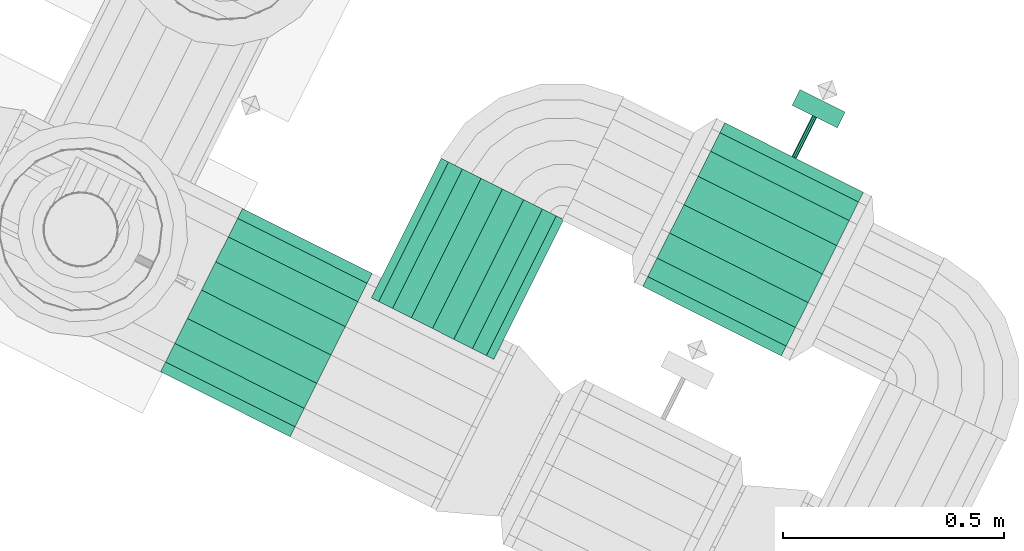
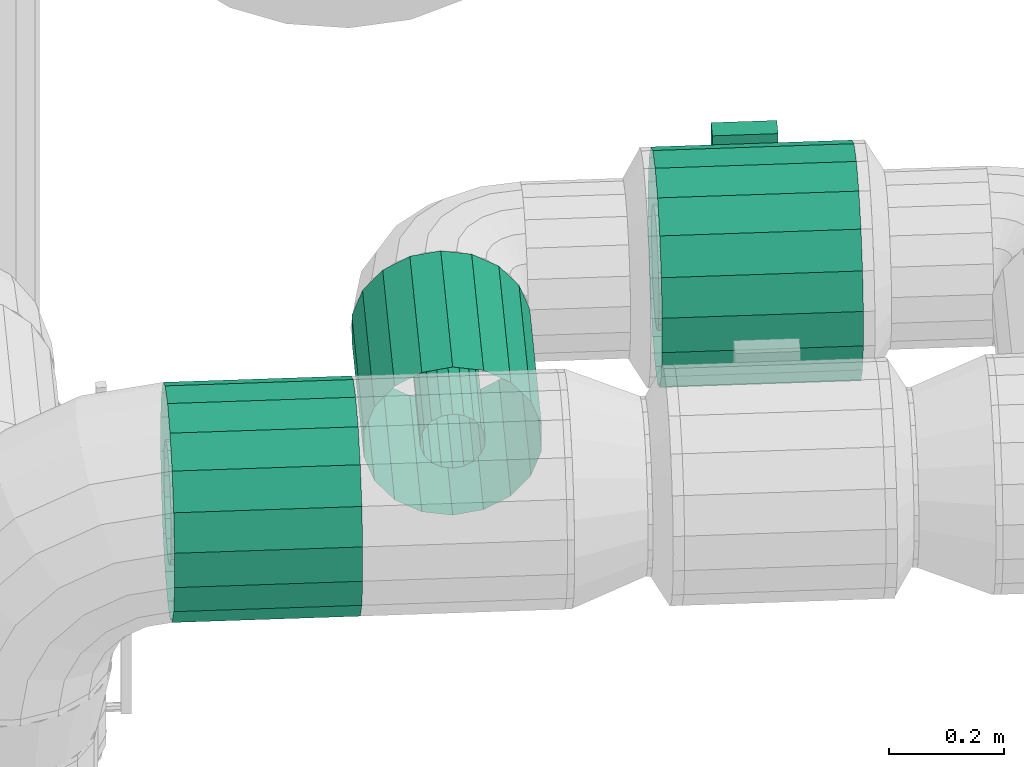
# One storey, part 34 of 152: 2 flow segments, 1 flow controller.
"""IFC2X3 building model written with IfcOpenShell, lengths in metres."""

from ifc_helpers import new_model, si_unit, derived_unit, direction, frame, origin, place, context, subcontext, project, spatial, face_set, surface_model, source, transform, mapped, material, type_object, type_shapes, element, save


model = new_model("IFC2X3")

# Units and contexts
model_context = context("Model", 3, precision=5.2338327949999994e-05, world=origin(), true_north=direction((0.0, 1.0)))
body_context = subcontext(model_context, "Body", "Model", "MODEL_VIEW")
ifc_project = project(units=[si_unit("LENGTHUNIT", "METRE"), si_unit("AREAUNIT", "SQUARE_METRE"), si_unit("VOLUMEUNIT", "CUBIC_METRE"), si_unit("MASSUNIT", "GRAM", prefix="KILO"), si_unit("PLANEANGLEUNIT", "RADIAN"), derived_unit("THERMALTRANSMITTANCEUNIT", [(si_unit("MASSUNIT", "GRAM", prefix="KILO"), 1), (si_unit("THERMODYNAMICTEMPERATUREUNIT", "KELVIN"), -1), (si_unit("TIMEUNIT", "SECOND"), -3)])], contexts=[model_context])

# Site, building, storey
site_placement = place(None, frame((0.0, 0.0, 0.0), z_axis=(0.0, 0.0, 1.0), x_axis=(0.8939966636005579, -0.4480736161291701, 0.0)))
site = spatial("IfcSite", under=ifc_project, at=site_placement, Name="Default", CompositionType="ELEMENT")
building_placement = place(site_placement, origin())
building = spatial("IfcBuilding", under=site, at=building_placement, CompositionType="ELEMENT")
storey_placement = place(building_placement, frame((0.0, 0.0, 2.7499999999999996)))
storey = spatial("IfcBuildingStorey", under=building, at=storey_placement, Name="1. Obergeschoss", CompositionType="ELEMENT", Elevation=2.7499999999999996)

# Flow controller
ifc_material = material(Name="IfcSurfaceStyle #9317")
distribution_element_type_1 = type_object("IfcDistributionElementType", Name="Ventil 267043:Ventil 267043", material=ifc_material)
shared_shape_1 = source(origin(), body_context, "Body", "SurfaceModel", [
    surface_model("IfcFaceBasedSurfaceModel", [(13.150078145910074, 6.827424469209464, 5.69279078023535), (13.035778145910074, 6.827424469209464, 5.69279078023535), (13.035778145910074, 6.827424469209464, 5.57849078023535), (13.150078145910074, 6.827424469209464, 5.57849078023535), (13.035778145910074, 6.867424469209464, 5.57849078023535), (13.150078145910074, 6.867424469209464, 5.57849078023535), (13.035778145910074, 6.867424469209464, 5.69279078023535), (13.150078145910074, 6.867424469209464, 5.69279078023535), (13.267928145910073, 6.517424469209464, 5.52564078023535), (13.267928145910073, 6.479802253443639, 5.5322745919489), (13.247928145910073, 6.479802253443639, 5.5322745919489), (13.247928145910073, 6.517424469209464, 5.52564078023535), (13.267928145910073, 6.4467178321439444, 5.551375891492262), (13.247928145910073, 6.4467178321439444, 5.551375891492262), (13.267928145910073, 6.422161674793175, 5.580640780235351), (13.247928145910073, 6.422161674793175, 5.580640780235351), (13.267928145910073, 6.409095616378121, 5.616539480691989), (13.247928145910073, 6.409095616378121, 5.616539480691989), (13.267928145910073, 6.409095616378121, 5.654742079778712), (13.247928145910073, 6.409095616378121, 5.654742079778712), (13.267928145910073, 6.422161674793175, 5.69064078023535), (13.247928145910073, 6.422161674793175, 5.69064078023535), (13.267928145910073, 6.4467178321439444, 5.719905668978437), (13.247928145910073, 6.4467178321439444, 5.719905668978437), (13.267928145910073, 6.479802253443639, 5.7390069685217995), (13.247928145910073, 6.479802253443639, 5.7390069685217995), (13.267928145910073, 6.517424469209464, 5.74564078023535), (13.247928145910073, 6.517424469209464, 5.74564078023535), (13.267928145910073, 6.555046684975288, 5.7390069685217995), (13.247928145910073, 6.555046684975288, 5.7390069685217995), (13.267928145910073, 6.588131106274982, 5.719905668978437), (13.247928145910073, 6.588131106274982, 5.719905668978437), (13.267928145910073, 6.612687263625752, 5.69064078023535), (13.247928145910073, 6.612687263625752, 5.69064078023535), (13.267928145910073, 6.625753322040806, 5.654742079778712), (13.247928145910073, 6.625753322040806, 5.654742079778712), (13.267928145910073, 6.625753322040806, 5.616539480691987), (13.247928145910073, 6.625753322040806, 5.616539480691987), (13.267928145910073, 6.612687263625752, 5.580640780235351), (13.247928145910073, 6.612687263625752, 5.580640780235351), (13.267928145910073, 6.588131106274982, 5.551375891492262), (13.247928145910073, 6.588131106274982, 5.551375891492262), (13.267928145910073, 6.555046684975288, 5.5322745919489), (13.247928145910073, 6.555046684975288, 5.5322745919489), (13.267928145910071, 6.517424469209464, 5.63564078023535), (13.247928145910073, 6.517424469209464, 5.63564078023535), (13.247928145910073, 6.451924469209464, 5.63564078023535), (13.247928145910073, 6.455874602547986, 5.658043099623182), (13.092928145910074, 6.463721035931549, 5.655187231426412), (13.092928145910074, 6.460274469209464, 5.635640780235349), (13.247928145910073, 6.467248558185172, 5.6777433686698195), (13.092928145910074, 6.473645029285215, 5.672376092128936), (13.247928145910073, 6.484674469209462, 5.69236544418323), (13.092928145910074, 6.488849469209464, 5.685134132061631), (13.247928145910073, 6.506050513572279, 5.700145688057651), (13.092928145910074, 6.5075004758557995, 5.691922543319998), (13.247928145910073, 6.528798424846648, 5.70014568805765), (13.092928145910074, 6.527348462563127, 5.691922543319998), (13.247928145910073, 6.550174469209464, 5.69236544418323), (13.092928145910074, 6.5459994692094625, 5.685134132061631), (13.247928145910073, 6.567600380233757, 5.6777433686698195), (13.092928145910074, 6.561203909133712, 5.672376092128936), (13.247928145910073, 6.578974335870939, 5.658043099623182), (13.092928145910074, 6.571127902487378, 5.655187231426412), (13.247928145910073, 6.582924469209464, 5.63564078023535), (13.092928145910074, 6.574574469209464, 5.63564078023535), (13.247928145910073, 6.57897433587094, 5.613238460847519), (13.092928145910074, 6.571127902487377, 5.616094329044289), (13.247928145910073, 6.567600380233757, 5.5935381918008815), (13.092928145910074, 6.561203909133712, 5.598905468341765), (13.247928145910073, 6.550174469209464, 5.578916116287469), (13.092928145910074, 6.5459994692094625, 5.58614742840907), (13.247928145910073, 6.528798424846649, 5.571135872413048), (13.092928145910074, 6.527348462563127, 5.579359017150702), (13.247928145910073, 6.506050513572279, 5.571135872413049), (13.092928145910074, 6.5075004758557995, 5.579359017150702), (13.247928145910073, 6.484674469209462, 5.578916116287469), (13.092928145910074, 6.488849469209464, 5.5861474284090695), (13.247928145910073, 6.46724855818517, 5.5935381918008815), (13.092928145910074, 6.473645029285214, 5.598905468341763), (13.247928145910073, 6.455874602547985, 5.613238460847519), (13.092928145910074, 6.463721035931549, 5.616094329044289), (12.937928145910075, 6.455874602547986, 5.658043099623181), (12.937928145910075, 6.451924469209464, 5.635640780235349), (12.937928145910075, 6.467248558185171, 5.677743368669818), (12.937928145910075, 6.484674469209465, 5.69236544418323), (12.937928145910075, 6.506050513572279, 5.700145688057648), (12.937928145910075, 6.528798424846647, 5.700145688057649), (12.937928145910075, 6.5501744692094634, 5.692365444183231), (12.937928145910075, 6.567600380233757, 5.677743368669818), (12.937928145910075, 6.5789743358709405, 5.658043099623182), (12.937928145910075, 6.5829244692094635, 5.63564078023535), (12.937928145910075, 6.5789743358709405, 5.613238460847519), (12.937928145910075, 6.567600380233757, 5.5935381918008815), (12.937928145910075, 6.550174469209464, 5.578916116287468), (12.937928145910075, 6.528798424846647, 5.571135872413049), (12.937928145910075, 6.506050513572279, 5.571135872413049), (12.937928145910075, 6.484674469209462, 5.578916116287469), (12.937928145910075, 6.467248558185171, 5.593538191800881), (12.937928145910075, 6.455874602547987, 5.613238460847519), (12.937928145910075, 6.517424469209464, 5.52564078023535), (12.937928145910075, 6.479802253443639, 5.5322745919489), (12.917928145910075, 6.479802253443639, 5.5322745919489), (12.917928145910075, 6.517424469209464, 5.52564078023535), (12.937928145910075, 6.4467178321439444, 5.551375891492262), (12.917928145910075, 6.4467178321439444, 5.551375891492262), (12.937928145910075, 6.422161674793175, 5.580640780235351), (12.917928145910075, 6.422161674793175, 5.580640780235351), (12.937928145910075, 6.409095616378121, 5.616539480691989), (12.917928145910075, 6.409095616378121, 5.616539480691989), (12.937928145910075, 6.409095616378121, 5.654742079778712), (12.917928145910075, 6.409095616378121, 5.654742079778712), (12.937928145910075, 6.422161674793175, 5.69064078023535), (12.917928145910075, 6.422161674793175, 5.69064078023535), (12.937928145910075, 6.4467178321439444, 5.719905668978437), (12.917928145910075, 6.4467178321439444, 5.719905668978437), (12.937928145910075, 6.479802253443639, 5.7390069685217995), (12.917928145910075, 6.479802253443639, 5.7390069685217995), (12.937928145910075, 6.517424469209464, 5.74564078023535), (12.917928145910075, 6.517424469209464, 5.74564078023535), (12.937928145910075, 6.555046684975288, 5.7390069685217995), (12.917928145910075, 6.555046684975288, 5.7390069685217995), (12.937928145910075, 6.588131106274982, 5.719905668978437), (12.917928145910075, 6.588131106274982, 5.719905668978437), (12.937928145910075, 6.612687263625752, 5.69064078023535), (12.917928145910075, 6.612687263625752, 5.69064078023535), (12.937928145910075, 6.625753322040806, 5.654742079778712), (12.917928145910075, 6.625753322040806, 5.654742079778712), (12.937928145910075, 6.625753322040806, 5.616539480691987), (12.917928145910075, 6.625753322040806, 5.616539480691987), (12.937928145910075, 6.612687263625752, 5.580640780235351), (12.917928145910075, 6.612687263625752, 5.580640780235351), (12.937928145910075, 6.588131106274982, 5.551375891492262), (12.917928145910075, 6.588131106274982, 5.551375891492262), (12.937928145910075, 6.555046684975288, 5.5322745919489), (12.917928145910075, 6.555046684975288, 5.5322745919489), (12.937928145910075, 6.517424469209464, 5.63564078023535), (12.917928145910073, 6.517424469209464, 5.63564078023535), (13.092928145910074, 6.517424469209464, 5.57849078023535), (13.07338169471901, 6.517424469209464, 5.581937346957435), (13.07338169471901, 6.700999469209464, 5.581937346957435), (13.092928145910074, 6.700999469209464, 5.57849078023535), (13.056192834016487, 6.517424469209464, 5.591861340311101), (13.056192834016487, 6.700999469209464, 5.591861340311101), (13.043434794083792, 6.517424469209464, 5.60706578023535), (13.043434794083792, 6.700999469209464, 5.60706578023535), (13.036646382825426, 6.517424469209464, 5.625716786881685), (13.036646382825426, 6.700999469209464, 5.625716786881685), (13.036646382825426, 6.517424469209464, 5.645564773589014), (13.036646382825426, 6.700999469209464, 5.645564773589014), (13.043434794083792, 6.517424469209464, 5.66421578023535), (13.043434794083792, 6.700999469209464, 5.66421578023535), (13.056192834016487, 6.517424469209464, 5.679420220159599), (13.056192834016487, 6.700999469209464, 5.679420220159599), (13.07338169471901, 6.517424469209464, 5.689344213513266), (13.07338169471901, 6.700999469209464, 5.689344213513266), (13.092928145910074, 6.517424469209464, 5.69279078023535), (13.092928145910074, 6.700999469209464, 5.69279078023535), (13.112474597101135, 6.517424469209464, 5.689344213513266), (13.112474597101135, 6.700999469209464, 5.689344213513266), (13.12966345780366, 6.517424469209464, 5.6794202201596), (13.12966345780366, 6.700999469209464, 5.6794202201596), (13.142421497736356, 6.517424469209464, 5.664215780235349), (13.142421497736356, 6.700999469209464, 5.664215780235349), (13.149209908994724, 6.517424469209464, 5.645564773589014), (13.149209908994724, 6.700999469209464, 5.645564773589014), (13.149209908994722, 6.517424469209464, 5.625716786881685), (13.149209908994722, 6.700999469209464, 5.625716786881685), (13.142421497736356, 6.517424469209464, 5.60706578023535), (13.142421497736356, 6.700999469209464, 5.60706578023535), (13.12966345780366, 6.517424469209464, 5.591861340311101), (13.12966345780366, 6.700999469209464, 5.591861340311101), (13.112474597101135, 6.517424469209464, 5.581937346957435), (13.112474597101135, 6.700999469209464, 5.581937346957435), (13.092928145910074, 6.517424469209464, 5.63564078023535), (13.092928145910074, 6.700999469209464, 5.63564078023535), (13.092928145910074, 6.700999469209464, 5.629925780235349), (13.088887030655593, 6.700999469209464, 5.631599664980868), (13.088887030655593, 6.827424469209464, 5.631599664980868), (13.092928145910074, 6.827424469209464, 5.629925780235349), (13.087213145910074, 6.700999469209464, 5.63564078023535), (13.087213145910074, 6.827424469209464, 5.63564078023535), (13.088887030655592, 6.700999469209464, 5.639681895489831), (13.088887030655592, 6.827424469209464, 5.639681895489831), (13.092928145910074, 6.700999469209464, 5.641355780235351), (13.092928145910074, 6.827424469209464, 5.641355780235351), (13.096969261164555, 6.700999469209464, 5.639681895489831), (13.096969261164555, 6.827424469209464, 5.639681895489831), (13.098643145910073, 6.700999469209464, 5.63564078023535), (13.098643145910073, 6.827424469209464, 5.63564078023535), (13.096969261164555, 6.700999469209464, 5.631599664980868), (13.096969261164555, 6.827424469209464, 5.631599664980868), (13.092928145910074, 6.827424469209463, 5.63564078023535), (13.267928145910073, 6.517424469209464, 5.42564078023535), (13.267928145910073, 6.445600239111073, 5.4383053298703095), (12.917928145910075, 6.445600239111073, 5.4383053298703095), (12.917928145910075, 6.517424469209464, 5.42564078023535), (13.267928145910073, 6.382439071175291, 5.474771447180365), (12.917928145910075, 6.382439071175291, 5.474771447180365), (13.267928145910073, 6.335559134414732, 5.53064078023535), (12.917928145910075, 6.335559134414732, 5.53064078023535), (13.267928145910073, 6.310614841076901, 5.599174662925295), (12.917928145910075, 6.310614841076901, 5.599174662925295), (13.267928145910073, 6.310614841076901, 5.672106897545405), (12.917928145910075, 6.310614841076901, 5.672106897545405), (13.267928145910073, 6.335559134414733, 5.740640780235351), (12.917928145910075, 6.335559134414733, 5.740640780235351), (13.267928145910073, 6.38243907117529, 5.796510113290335), (12.917928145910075, 6.38243907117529, 5.796510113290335), (13.267928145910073, 6.445600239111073, 5.832976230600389), (12.917928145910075, 6.445600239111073, 5.832976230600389), (13.267928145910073, 6.517424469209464, 5.84564078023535), (12.917928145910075, 6.517424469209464, 5.84564078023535), (13.267928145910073, 6.589248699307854, 5.832976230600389), (12.917928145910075, 6.589248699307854, 5.832976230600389), (13.267928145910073, 6.6524098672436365, 5.796510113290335), (12.917928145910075, 6.6524098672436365, 5.796510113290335), (13.267928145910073, 6.699289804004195, 5.740640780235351), (12.917928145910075, 6.699289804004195, 5.740640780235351), (13.267928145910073, 6.724234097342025, 5.672106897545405), (12.917928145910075, 6.724234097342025, 5.672106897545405), (13.267928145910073, 6.724234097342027, 5.599174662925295), (12.917928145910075, 6.724234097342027, 5.599174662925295), (13.267928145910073, 6.699289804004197, 5.53064078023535), (12.917928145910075, 6.699289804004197, 5.53064078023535), (13.267928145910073, 6.6524098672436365, 5.474771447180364), (12.917928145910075, 6.6524098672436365, 5.474771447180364), (13.267928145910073, 6.589248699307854, 5.4383053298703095), (12.917928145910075, 6.589248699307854, 5.4383053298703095)], [face_set([[[0, 1, 2, 3]], [[3, 2, 4, 5]], [[5, 4, 6, 7]], [[7, 6, 1, 0]], [[0, 3, 5, 7]], [[6, 4, 2, 1]], [[8, 9, 10, 11]], [[9, 12, 13, 10]], [[12, 14, 15, 13]], [[14, 16, 17, 15]], [[16, 18, 19, 17]], [[18, 20, 21, 19]], [[20, 22, 23, 21]], [[22, 24, 25, 23]], [[24, 26, 27, 25]], [[26, 28, 29, 27]], [[28, 30, 31, 29]], [[30, 32, 33, 31]], [[32, 34, 35, 33]], [[34, 36, 37, 35]], [[36, 38, 39, 37]], [[38, 40, 41, 39]], [[40, 42, 43, 41]], [[42, 8, 11, 43]], [[44, 9, 8]], [[44, 12, 9]], [[44, 14, 12]], [[44, 16, 14]], [[44, 18, 16]], [[44, 20, 18]], [[44, 22, 20]], [[44, 24, 22]], [[44, 26, 24]], [[44, 28, 26]], [[44, 30, 28]], [[44, 32, 30]], [[44, 34, 32]], [[44, 36, 34]], [[44, 38, 36]], [[44, 40, 38]], [[44, 42, 40]], [[44, 8, 42]], [[45, 43, 11]], [[45, 41, 43]], [[45, 39, 41]], [[45, 37, 39]], [[45, 35, 37]], [[45, 33, 35]], [[45, 31, 33]], [[45, 29, 31]], [[45, 27, 29]], [[45, 25, 27]], [[45, 23, 25]], [[45, 21, 23]], [[45, 19, 21]], [[45, 17, 19]], [[45, 15, 17]], [[45, 13, 15]], [[45, 10, 13]], [[45, 11, 10]], [[46, 47, 48, 49]], [[47, 50, 51, 48]], [[50, 52, 53, 51]], [[52, 54, 55, 53]], [[54, 56, 57, 55]], [[56, 58, 59, 57]], [[58, 60, 61, 59]], [[60, 62, 63, 61]], [[62, 64, 65, 63]], [[64, 66, 67, 65]], [[66, 68, 69, 67]], [[68, 70, 71, 69]], [[70, 72, 73, 71]], [[72, 74, 75, 73]], [[74, 76, 77, 75]], [[76, 78, 79, 77]], [[78, 80, 81, 79]], [[80, 46, 49, 81]], [[49, 48, 82, 83]], [[48, 51, 84, 82]], [[51, 53, 85, 84]], [[53, 55, 86, 85]], [[55, 57, 87, 86]], [[57, 59, 88, 87]], [[59, 61, 89, 88]], [[61, 63, 90, 89]], [[63, 65, 91, 90]], [[65, 67, 92, 91]], [[67, 69, 93, 92]], [[69, 71, 94, 93]], [[71, 73, 95, 94]], [[73, 75, 96, 95]], [[75, 77, 97, 96]], [[77, 79, 98, 97]], [[79, 81, 99, 98]], [[81, 49, 83, 99]], [[100, 101, 102, 103]], [[101, 104, 105, 102]], [[104, 106, 107, 105]], [[106, 108, 109, 107]], [[108, 110, 111, 109]], [[110, 112, 113, 111]], [[112, 114, 115, 113]], [[114, 116, 117, 115]], [[116, 118, 119, 117]], [[118, 120, 121, 119]], [[120, 122, 123, 121]], [[122, 124, 125, 123]], [[124, 126, 127, 125]], [[126, 128, 129, 127]], [[128, 130, 131, 129]], [[130, 132, 133, 131]], [[132, 134, 135, 133]], [[134, 100, 103, 135]], [[136, 101, 100]], [[136, 104, 101]], [[136, 106, 104]], [[136, 108, 106]], [[136, 110, 108]], [[136, 112, 110]], [[136, 114, 112]], [[136, 116, 114]], [[136, 118, 116]], [[136, 120, 118]], [[136, 122, 120]], [[136, 124, 122]], [[136, 126, 124]], [[136, 128, 126]], [[136, 130, 128]], [[136, 132, 130]], [[136, 134, 132]], [[136, 100, 134]], [[137, 135, 103]], [[137, 133, 135]], [[137, 131, 133]], [[137, 129, 131]], [[137, 127, 129]], [[137, 125, 127]], [[137, 123, 125]], [[137, 121, 123]], [[137, 119, 121]], [[137, 117, 119]], [[137, 115, 117]], [[137, 113, 115]], [[137, 111, 113]], [[137, 109, 111]], [[137, 107, 109]], [[137, 105, 107]], [[137, 102, 105]], [[137, 103, 102]], [[138, 139, 140, 141]], [[139, 142, 143, 140]], [[142, 144, 145, 143]], [[144, 146, 147, 145]], [[146, 148, 149, 147]], [[148, 150, 151, 149]], [[150, 152, 153, 151]], [[152, 154, 155, 153]], [[154, 156, 157, 155]], [[156, 158, 159, 157]], [[158, 160, 161, 159]], [[160, 162, 163, 161]], [[162, 164, 165, 163]], [[164, 166, 167, 165]], [[166, 168, 169, 167]], [[168, 170, 171, 169]], [[170, 172, 173, 171]], [[172, 138, 141, 173]], [[174, 139, 138]], [[174, 142, 139]], [[174, 144, 142]], [[174, 146, 144]], [[174, 148, 146]], [[174, 150, 148]], [[174, 152, 150]], [[174, 154, 152]], [[174, 156, 154]], [[174, 158, 156]], [[174, 160, 158]], [[174, 162, 160]], [[174, 164, 162]], [[174, 166, 164]], [[174, 168, 166]], [[174, 170, 168]], [[174, 172, 170]], [[174, 138, 172]], [[175, 173, 141]], [[175, 171, 173]], [[175, 169, 171]], [[175, 167, 169]], [[175, 165, 167]], [[175, 163, 165]], [[175, 161, 163]], [[175, 159, 161]], [[175, 157, 159]], [[175, 155, 157]], [[175, 153, 155]], [[175, 151, 153]], [[175, 149, 151]], [[175, 147, 149]], [[175, 145, 147]], [[175, 143, 145]], [[175, 140, 143]], [[175, 141, 140]], [[176, 177, 178, 179]], [[177, 180, 181, 178]], [[180, 182, 183, 181]], [[182, 184, 185, 183]], [[184, 186, 187, 185]], [[186, 188, 189, 187]], [[188, 190, 191, 189]], [[190, 176, 179, 191]], [[192, 191, 179]], [[192, 189, 191]], [[192, 187, 189]], [[192, 185, 187]], [[192, 183, 185]], [[192, 181, 183]], [[192, 178, 181]], [[192, 179, 178]], [[193, 194, 195, 196]], [[194, 197, 198, 195]], [[197, 199, 200, 198]], [[199, 201, 202, 200]], [[201, 203, 204, 202]], [[203, 205, 206, 204]], [[205, 207, 208, 206]], [[207, 209, 210, 208]], [[209, 211, 212, 210]], [[211, 213, 214, 212]], [[213, 215, 216, 214]], [[215, 217, 218, 216]], [[217, 219, 220, 218]], [[219, 221, 222, 220]], [[221, 223, 224, 222]], [[223, 225, 226, 224]], [[225, 227, 228, 226]], [[227, 193, 196, 228]]])]),
])
type_shapes(distribution_element_type_1, [shared_shape_1])
flow_controller_placement = place(storey_placement, frame((0.0, 0.0, -2.7499999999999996)))
element("IfcFlowController", 1, at=flow_controller_placement, inside=storey, type_object=distribution_element_type_1, material=ifc_material, Name="Ventil", ObjectType="Ventil", context=body_context, shape_type="MappedRepresentation", body=[
    mapped(shared_shape_1, transform((0.0, 0.0, 0.0), scale=1.0)),
])

# Flow segments
distribution_element_type_2 = type_object("IfcDistributionElementType", Name="Stahlrohr nach DIN 2448 267445:Stahlrohr nach DIN 2448 267445", material=ifc_material)
shared_shape_2 = source(origin(), body_context, "Body", "SurfaceModel", [
    surface_model("IfcFaceBasedSurfaceModel", [(12.535928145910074, 6.365424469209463, 5.578490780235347), (12.555474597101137, 6.365424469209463, 5.581937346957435), (12.555474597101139, 6.012787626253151, 5.581937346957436), (12.535928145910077, 6.012787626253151, 5.578490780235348), (12.57266345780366, 6.365424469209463, 5.5918613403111), (12.572663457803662, 6.012787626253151, 5.591861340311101), (12.585421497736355, 6.365424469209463, 5.607065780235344), (12.585421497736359, 6.012787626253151, 5.60706578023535), (12.592209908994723, 6.365424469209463, 5.625716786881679), (12.592209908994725, 6.012787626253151, 5.625716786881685), (12.592209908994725, 6.365424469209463, 5.645564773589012), (12.592209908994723, 6.012787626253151, 5.645564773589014), (12.585421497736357, 6.365424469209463, 5.66421578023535), (12.585421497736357, 6.012787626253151, 5.66421578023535), (12.572663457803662, 6.365424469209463, 5.679420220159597), (12.57266345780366, 6.012787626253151, 5.679420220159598), (12.555474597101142, 6.365424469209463, 5.689344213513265), (12.555474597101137, 6.012787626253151, 5.689344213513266), (12.535928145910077, 6.365424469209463, 5.692790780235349), (12.535928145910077, 6.012787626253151, 5.692790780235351), (12.516381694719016, 6.365424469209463, 5.689344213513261), (12.516381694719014, 6.012787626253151, 5.689344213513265), (12.49919283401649, 6.365424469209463, 5.679420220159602), (12.499192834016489, 6.012787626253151, 5.679420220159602), (12.486434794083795, 6.365424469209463, 5.664215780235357), (12.486434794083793, 6.012787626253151, 5.664215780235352), (12.479646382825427, 6.365424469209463, 5.645564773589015), (12.479646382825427, 6.012787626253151, 5.645564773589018), (12.479646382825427, 6.365424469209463, 5.625716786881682), (12.479646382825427, 6.012787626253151, 5.6257167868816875), (12.486434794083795, 6.365424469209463, 5.607065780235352), (12.486434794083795, 6.012787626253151, 5.607065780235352), (12.499192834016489, 6.365424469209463, 5.5918613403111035), (12.49919283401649, 6.012787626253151, 5.591861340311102), (12.516381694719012, 6.365424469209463, 5.581937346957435), (12.516381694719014, 6.012787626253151, 5.581937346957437), (12.53592814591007, 6.365424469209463, 5.478490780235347), (12.589676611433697, 6.365424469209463, 5.487968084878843), (12.589676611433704, 6.012787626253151, 5.487968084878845), (12.535928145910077, 6.012787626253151, 5.478490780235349), (12.63694221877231, 6.365424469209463, 5.515256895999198), (12.636942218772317, 6.012787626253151, 5.515256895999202), (12.672024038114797, 6.365424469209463, 5.557065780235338), (12.672024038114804, 6.012787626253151, 5.557065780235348), (12.690690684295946, 6.365424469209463, 5.608351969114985), (12.690690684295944, 6.012787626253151, 5.608351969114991), (12.690690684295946, 6.365424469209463, 5.6629295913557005), (12.690690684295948, 6.012787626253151, 5.662929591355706), (12.672024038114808, 6.365424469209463, 5.7142157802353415), (12.672024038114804, 6.012787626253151, 5.71421578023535), (12.636942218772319, 6.365424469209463, 5.75602466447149), (12.636942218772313, 6.012787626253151, 5.756024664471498), (12.58967661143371, 6.365424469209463, 5.783313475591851), (12.589676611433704, 6.012787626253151, 5.7833134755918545), (12.535928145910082, 6.365424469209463, 5.792790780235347), (12.535928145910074, 6.012787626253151, 5.792790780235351), (12.482179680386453, 6.365424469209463, 5.783313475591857), (12.482179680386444, 6.012787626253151, 5.783313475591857), (12.434914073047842, 6.365424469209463, 5.7560246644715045), (12.434914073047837, 6.012787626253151, 5.7560246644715), (12.399832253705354, 6.365424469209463, 5.714215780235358), (12.399832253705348, 6.012787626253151, 5.714215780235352), (12.381165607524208, 6.365424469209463, 5.662929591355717), (12.381165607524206, 6.012787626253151, 5.662929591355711), (12.381165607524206, 6.365424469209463, 5.6083519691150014), (12.381165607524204, 6.012787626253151, 5.608351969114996), (12.399832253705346, 6.365424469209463, 5.557065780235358), (12.399832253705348, 6.012787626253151, 5.557065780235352), (12.434914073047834, 6.365424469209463, 5.5152568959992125), (12.434914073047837, 6.012787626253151, 5.515256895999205), (12.482179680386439, 6.365424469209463, 5.4879680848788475), (12.482179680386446, 6.012787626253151, 5.487968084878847)], [face_set([[[0, 1, 2, 3]], [[1, 4, 5, 2]], [[4, 6, 7, 5]], [[6, 8, 9, 7]], [[8, 10, 11, 9]], [[10, 12, 13, 11]], [[12, 14, 15, 13]], [[14, 16, 17, 15]], [[16, 18, 19, 17]], [[18, 20, 21, 19]], [[20, 22, 23, 21]], [[22, 24, 25, 23]], [[24, 26, 27, 25]], [[26, 28, 29, 27]], [[28, 30, 31, 29]], [[30, 32, 33, 31]], [[32, 34, 35, 33]], [[34, 0, 3, 35]], [[36, 37, 38, 39]], [[37, 40, 41, 38]], [[40, 42, 43, 41]], [[42, 44, 45, 43]], [[44, 46, 47, 45]], [[46, 48, 49, 47]], [[48, 50, 51, 49]], [[50, 52, 53, 51]], [[52, 54, 55, 53]], [[54, 56, 57, 55]], [[56, 58, 59, 57]], [[58, 60, 61, 59]], [[60, 62, 63, 61]], [[62, 64, 65, 63]], [[64, 66, 67, 65]], [[66, 68, 69, 67]], [[68, 70, 71, 69]], [[70, 36, 39, 71]]])]),
])
type_shapes(distribution_element_type_2, [shared_shape_2])
flow_segment_1_placement = place(storey_placement, frame((0.0, 0.0, -2.7499999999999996)))
element("IfcFlowSegment", 2, at=flow_segment_1_placement, inside=storey, type_object=distribution_element_type_2, material=ifc_material, Name="Stahlrohr nach DIN 2448", ObjectType="Stahlrohr nach DIN 2448", context=body_context, shape_type="MappedRepresentation", body=[
    mapped(shared_shape_2, transform((0.0, 0.0, 0.0), scale=1.0)),
])
distribution_element_type_3 = type_object("IfcDistributionElementType", Name="Stahlrohr nach DIN 2448 268592:Stahlrohr nach DIN 2448 268592", material=ifc_material)
shared_shape_3 = source(origin(), body_context, "Body", "SurfaceModel", [
    surface_model("IfcFaceBasedSurfaceModel", [(12.357928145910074, 5.856787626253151, 5.745190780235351), (12.357928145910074, 5.894255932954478, 5.738584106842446), (12.030668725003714, 5.8942559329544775, 5.738584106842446), (12.030668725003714, 5.856787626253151, 5.74519078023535), (12.357928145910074, 5.927205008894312, 5.719560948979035), (12.030668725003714, 5.927205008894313, 5.719560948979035), (12.357928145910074, 5.951660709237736, 5.690415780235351), (12.030668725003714, 5.951660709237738, 5.6904157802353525), (12.357928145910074, 5.964673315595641, 5.654663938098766), (12.030668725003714, 5.9646733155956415, 5.654663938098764), (12.357928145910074, 5.96467331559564, 5.616617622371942), (12.030668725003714, 5.96467331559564, 5.61661762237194), (12.357928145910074, 5.951660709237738, 5.58086578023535), (12.030668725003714, 5.951660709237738, 5.580865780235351), (12.357928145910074, 5.927205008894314, 5.551720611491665), (12.030668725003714, 5.927205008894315, 5.5517206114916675), (12.357928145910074, 5.894255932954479, 5.5326974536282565), (12.030668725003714, 5.89425593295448, 5.532697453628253), (12.357928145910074, 5.856787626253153, 5.52609078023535), (12.030668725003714, 5.856787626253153, 5.52609078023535), (12.357928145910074, 5.819319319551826, 5.532697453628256), (12.030668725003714, 5.819319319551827, 5.532697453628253), (12.357928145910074, 5.786370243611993, 5.551720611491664), (12.030668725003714, 5.786370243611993, 5.551720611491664), (12.357928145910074, 5.761914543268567, 5.58086578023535), (12.030668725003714, 5.761914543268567, 5.580865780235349), (12.357928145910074, 5.748901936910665, 5.616617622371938), (12.030668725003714, 5.748901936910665, 5.616617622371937), (12.357928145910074, 5.7489019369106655, 5.6546639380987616), (12.030668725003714, 5.7489019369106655, 5.654663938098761), (12.357928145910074, 5.761914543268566, 5.690415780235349), (12.030668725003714, 5.761914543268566, 5.690415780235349), (12.357928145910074, 5.786370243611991, 5.719560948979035), (12.030668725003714, 5.786370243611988, 5.7195609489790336), (12.357928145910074, 5.819319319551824, 5.738584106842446), (12.030668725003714, 5.819319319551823, 5.738584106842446), (12.357928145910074, 5.856787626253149, 5.84519078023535), (12.357928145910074, 5.928457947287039, 5.832553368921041), (12.030668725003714, 5.928457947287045, 5.832553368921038), (12.030668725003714, 5.856787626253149, 5.845190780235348), (12.357928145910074, 5.991483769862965, 5.796165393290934), (12.030668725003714, 5.991483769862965, 5.796165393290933), (12.357928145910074, 6.03826324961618, 5.74041578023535), (12.030668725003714, 6.038263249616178, 5.740415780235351), (12.357928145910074, 6.06315409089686, 5.672028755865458), (12.030668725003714, 6.06315409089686, 5.672028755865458), (12.357928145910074, 6.06315409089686, 5.599252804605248), (12.030668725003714, 6.063154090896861, 5.599252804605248), (12.357928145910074, 6.038263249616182, 5.530865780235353), (12.030668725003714, 6.038263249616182, 5.530865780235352), (12.357928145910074, 5.991483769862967, 5.4751161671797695), (12.030668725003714, 5.991483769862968, 5.47511616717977), (12.357928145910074, 5.928457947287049, 5.438728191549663), (12.030668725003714, 5.9284579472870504, 5.438728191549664), (12.357928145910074, 5.856787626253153, 5.426090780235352), (12.030668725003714, 5.856787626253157, 5.426090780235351), (12.357928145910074, 5.78511730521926, 5.438728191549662), (12.030668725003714, 5.785117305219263, 5.438728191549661), (12.357928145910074, 5.7220914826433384, 5.475116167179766), (12.030668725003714, 5.722091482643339, 5.475116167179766), (12.357928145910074, 5.675312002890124, 5.53086578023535), (12.030668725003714, 5.675312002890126, 5.530865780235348), (12.357928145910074, 5.650421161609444, 5.599252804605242), (12.030668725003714, 5.6504211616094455, 5.599252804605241), (12.357928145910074, 5.650421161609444, 5.672028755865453), (12.030668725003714, 5.6504211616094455, 5.672028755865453), (12.357928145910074, 5.675312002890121, 5.740415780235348), (12.030668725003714, 5.675312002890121, 5.740415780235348), (12.357928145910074, 5.722091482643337, 5.796165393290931), (12.030668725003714, 5.722091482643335, 5.796165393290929), (12.357928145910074, 5.785117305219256, 5.832553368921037), (12.030668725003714, 5.785117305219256, 5.832553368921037)], [face_set([[[0, 1, 2, 3]], [[1, 4, 5, 2]], [[4, 6, 7, 5]], [[6, 8, 9, 7]], [[8, 10, 11, 9]], [[10, 12, 13, 11]], [[12, 14, 15, 13]], [[14, 16, 17, 15]], [[16, 18, 19, 17]], [[18, 20, 21, 19]], [[20, 22, 23, 21]], [[22, 24, 25, 23]], [[24, 26, 27, 25]], [[26, 28, 29, 27]], [[28, 30, 31, 29]], [[30, 32, 33, 31]], [[32, 34, 35, 33]], [[34, 0, 3, 35]], [[36, 37, 38, 39]], [[37, 40, 41, 38]], [[40, 42, 43, 41]], [[42, 44, 45, 43]], [[44, 46, 47, 45]], [[46, 48, 49, 47]], [[48, 50, 51, 49]], [[50, 52, 53, 51]], [[52, 54, 55, 53]], [[54, 56, 57, 55]], [[56, 58, 59, 57]], [[58, 60, 61, 59]], [[60, 62, 63, 61]], [[62, 64, 65, 63]], [[64, 66, 67, 65]], [[66, 68, 69, 67]], [[68, 70, 71, 69]], [[70, 36, 39, 71]]])]),
])
type_shapes(distribution_element_type_3, [shared_shape_3])
flow_segment_2_placement = place(storey_placement, frame((0.0, 0.0, -2.7499999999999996)))
element("IfcFlowSegment", 3, at=flow_segment_2_placement, inside=storey, type_object=distribution_element_type_3, material=ifc_material, Name="Stahlrohr nach DIN 2448", ObjectType="Stahlrohr nach DIN 2448", context=body_context, shape_type="MappedRepresentation", body=[
    mapped(shared_shape_3, transform((0.0, 0.0, 0.0), scale=1.0)),
])

save(model, "model.ifc")
